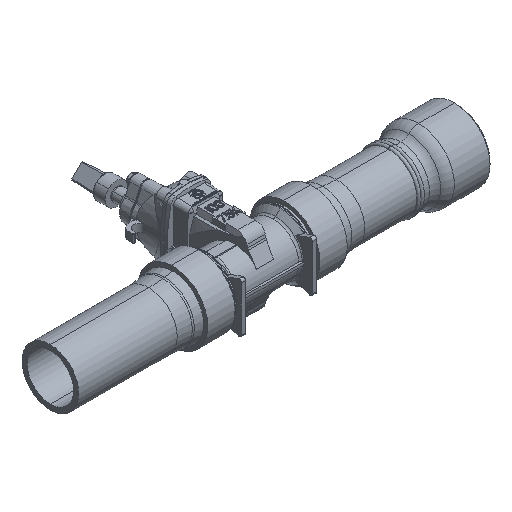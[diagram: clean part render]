
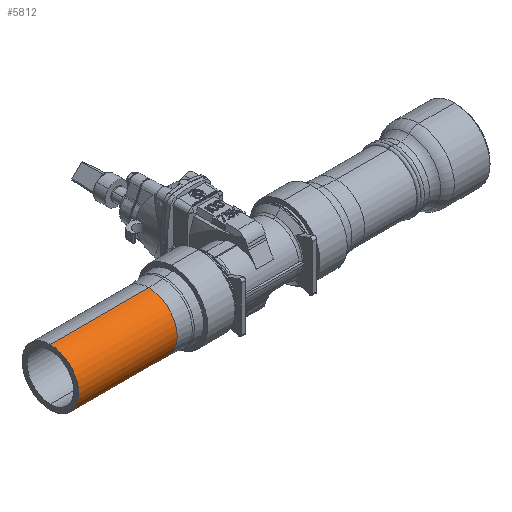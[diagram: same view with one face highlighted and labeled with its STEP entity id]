
A CAD part, isometric view. The second image highlights one B-rep face of the part: STEP entity #5812.
In plain terms, the highlighted cylindrical face has radius 62.5 mm (diameter 125 mm), a partial arc.
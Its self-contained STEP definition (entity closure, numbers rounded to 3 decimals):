
#362 = EDGE_CURVE ( 'NONE', #18574, #19327, #9013, .T. ) ;
#529 = CARTESIAN_POINT ( 'NONE',  ( -423.5, 0., -62.5 ) ) ;
#1679 = CARTESIAN_POINT ( 'NONE',  ( 180.997, 0., 0. ) ) ;
#1727 = EDGE_LOOP ( 'NONE', ( #21859, #22626, #17796, #19269 ) ) ;
#2205 = CIRCLE ( 'NONE', #14529, 62.5 ) ;
#2737 = EDGE_CURVE ( 'NONE', #23379, #19327, #2205, .T. ) ;
#2917 = CARTESIAN_POINT ( 'NONE',  ( 180.997, 0., 62.5 ) ) ;
#5812 = ADVANCED_FACE ( 'NONE', ( #14807 ), #10833, .T. ) ;
#7519 = EDGE_CURVE ( 'NONE', #8049, #18574, #7849, .T. ) ;
#7581 = CARTESIAN_POINT ( 'NONE',  ( 180.997, 0., -62.5 ) ) ;
#7849 = CIRCLE ( 'NONE', #15922, 62.5 ) ;
#8049 = VERTEX_POINT ( 'NONE', #11816 ) ;
#8743 = DIRECTION ( 'NONE',  ( 0., 0., -1. ) ) ;
#8825 = DIRECTION ( 'NONE',  ( 1., 0., 0. ) ) ;
#8933 = AXIS2_PLACEMENT_3D ( 'NONE', #1679, #22198, #9262 ) ;
#9013 = LINE ( 'NONE', #7581, #15254 ) ;
#9262 = DIRECTION ( 'NONE',  ( 0., 0., -1. ) ) ;
#9555 = VECTOR ( 'NONE', #23753, 1000. ) ;
#10281 = DIRECTION ( 'NONE',  ( 0., 0., -1. ) ) ;
#10833 = CYLINDRICAL_SURFACE ( 'NONE', #8933, 62.5 ) ;
#11330 = EDGE_CURVE ( 'NONE', #8049, #23379, #16367, .T. ) ;
#11750 = CARTESIAN_POINT ( 'NONE',  ( -206.623, 0., 62.5 ) ) ;
#11816 = CARTESIAN_POINT ( 'NONE',  ( -423.5, 0., 62.5 ) ) ;
#14529 = AXIS2_PLACEMENT_3D ( 'NONE', #19821, #8825, #10281 ) ;
#14807 = FACE_OUTER_BOUND ( 'NONE', #1727, .T. ) ;
#15254 = VECTOR ( 'NONE', #22184, 1000. ) ;
#15922 = AXIS2_PLACEMENT_3D ( 'NONE', #21198, #23005, #8743 ) ;
#16367 = LINE ( 'NONE', #2917, #9555 ) ;
#17796 = ORIENTED_EDGE ( 'NONE', *, *, #362, .T. ) ;
#18574 = VERTEX_POINT ( 'NONE', #529 ) ;
#19269 = ORIENTED_EDGE ( 'NONE', *, *, #2737, .F. ) ;
#19327 = VERTEX_POINT ( 'NONE', #20622 ) ;
#19821 = CARTESIAN_POINT ( 'NONE',  ( -206.623, 0., 0. ) ) ;
#20622 = CARTESIAN_POINT ( 'NONE',  ( -206.623, 0., -62.5 ) ) ;
#21198 = CARTESIAN_POINT ( 'NONE',  ( -423.5, 0., 0. ) ) ;
#21859 = ORIENTED_EDGE ( 'NONE', *, *, #11330, .F. ) ;
#22184 = DIRECTION ( 'NONE',  ( 1., 0., 0. ) ) ;
#22198 = DIRECTION ( 'NONE',  ( 1., 0., 0. ) ) ;
#22626 = ORIENTED_EDGE ( 'NONE', *, *, #7519, .T. ) ;
#23005 = DIRECTION ( 'NONE',  ( 1., 0., 0. ) ) ;
#23379 = VERTEX_POINT ( 'NONE', #11750 ) ;
#23753 = DIRECTION ( 'NONE',  ( 1., 0., 0. ) ) ;
